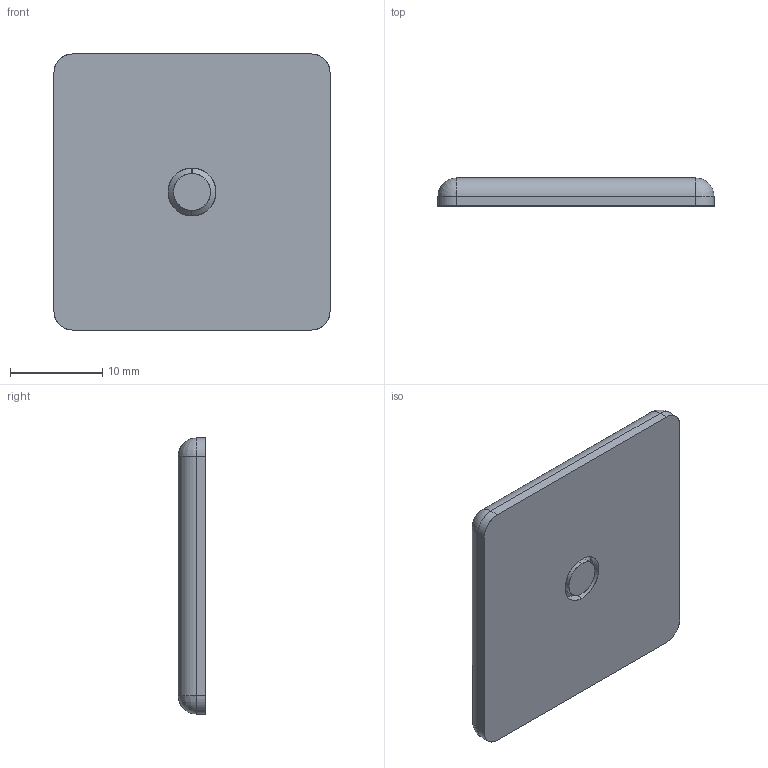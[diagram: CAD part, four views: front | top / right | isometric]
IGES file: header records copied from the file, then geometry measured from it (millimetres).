
Start section: SolidWorks IGES file using analytic representation for surfaces
Global section: file name: C:\Documents and Settings\TonookaT\デスクトップ\2008WEBCADﾃﾞｰﾀ\SFK-05L.IGS; native system: SolidWorks 2006 by SolidWorks Corporation; preprocessor: SolidWorks 2006 by SolidWorks Corporation; author: TonookaT; date: 080826.140441; units: millimetre
Bounding box: 30 x 3 x 30 mm (x, y, z)
Surface area: 2187.1 mm2 (no closed solid volume)
Topology: 0 solids, 0 shells, 47 faces, 392 edges, 388 vertices
Faces by surface type: revolution 26, bspline 21
